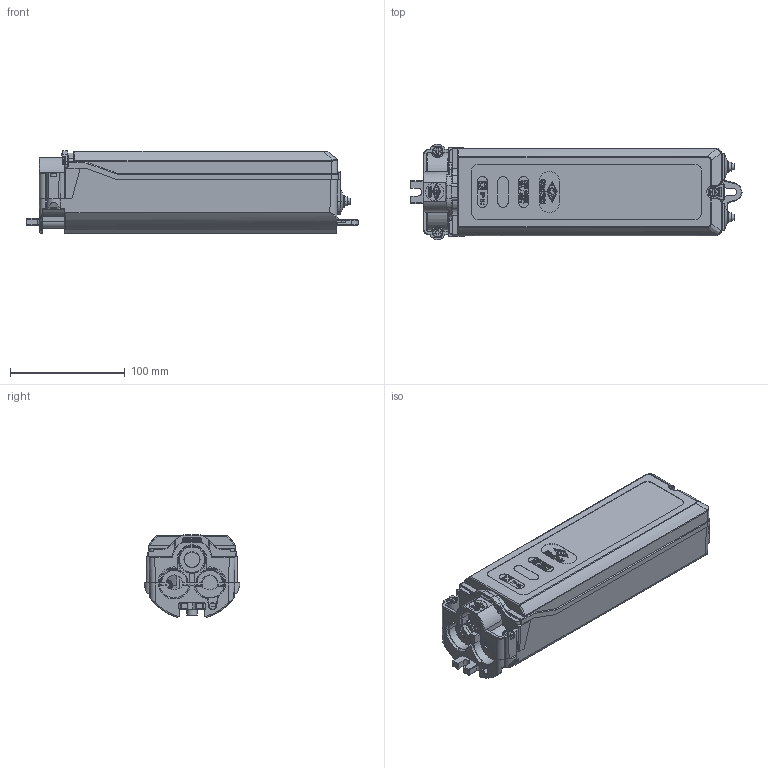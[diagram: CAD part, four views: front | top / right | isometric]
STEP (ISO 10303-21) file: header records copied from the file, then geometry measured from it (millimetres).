
FILE_DESCRIPTION (( 'STEP AP203' ), '1' );
FILE_NAME ('3D - HSW2230 Außenkontur.STEP', '2019-06-19T09:26:19', ( '' ), ( '' ), 'SwSTEP 2.0', 'SolidWorks 2013', '' );
FILE_SCHEMA (( 'CONFIG_CONTROL_DESIGN' ));
Products named in the file (1): 3D - HSW2230 Außenkontur
Bounding box: 289.6 x 83.5 x 71.86 mm (x, y, z)
Surface area: 102996.4 mm2 (no closed solid volume)
Topology: 0 solids, 26 shells, 1065 faces, 3872 edges, 2741 vertices
Faces by surface type: plane 519, cylinder 291, bspline 137, torus 62, cone 46, sphere 10
Entity records: 51653 total; most frequent: CARTESIAN_POINT 20768, ORIENTED_EDGE 6180, DIRECTION 5740, EDGE_CURVE 3864, VERTEX_POINT 2741, LINE 2336, VECTOR 2336, AXIS2_PLACEMENT_3D 1702
